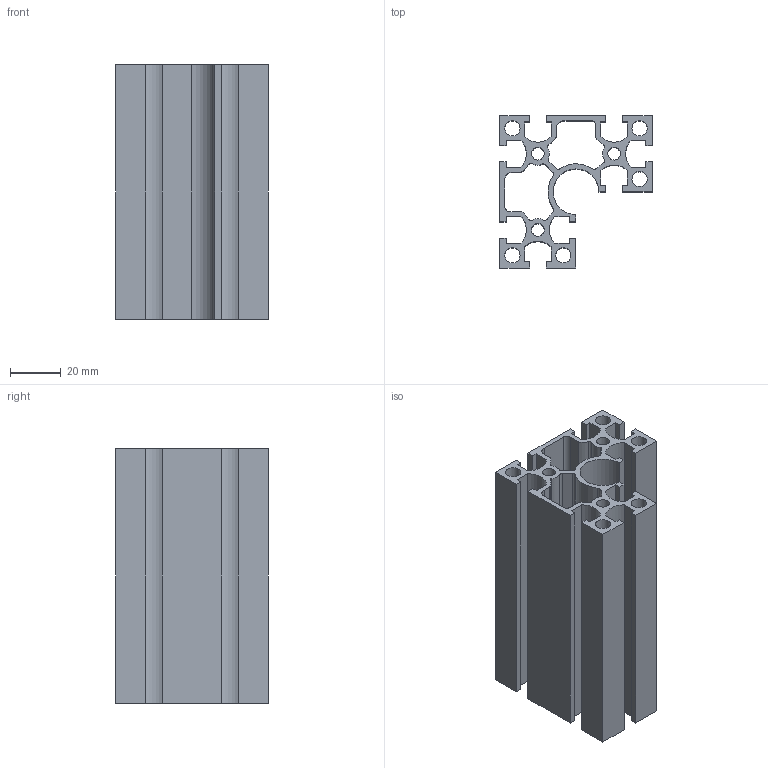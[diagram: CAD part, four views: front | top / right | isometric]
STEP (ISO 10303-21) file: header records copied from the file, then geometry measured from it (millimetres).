
FILE_DESCRIPTION(/* description */ (''),/* implementation_level */ '2;1');
FILE_NAME(/* name */ '\\AM-PUBLIC\Share\02.新型錄-2021\AM6系列\6系列-3D\01.6系列-AM-鋁擠\AM6-6630_100L.stp',/* time_stamp */ '2021-12-20T10:25:10+08:00',/* author */ ('user'),/* organization */ (''),/* preprocessor_version */ 'ST-DEVELOPER v18.1',/* originating_system */ 'Autodesk Inventor 2021',/* authorisation */ '');
FILE_SCHEMA (('AUTOMOTIVE_DESIGN { 1 0 10303 214 3 1 1 }'));
Length unit declared in the file: millimetre
Products named in the file (1): AM6-6630_100L
Bounding box: 60 x 60 x 100 mm (x, y, z)
Volume: 89710.1 mm3; surface area: 77872.7 mm2
Topology: 1 solids, 1 shells, 119 faces, 351 edges, 234 vertices
Faces by surface type: plane 72, cylinder 47
Full cylindrical faces by diameter (mm): 5 x3, 6 x5
Entity records: 4069 total; most frequent: CARTESIAN_POINT 705, ORIENTED_EDGE 702, DIRECTION 685, EDGE_CURVE 351, LINE 257, VECTOR 257, VERTEX_POINT 234, AXIS2_PLACEMENT_3D 214
